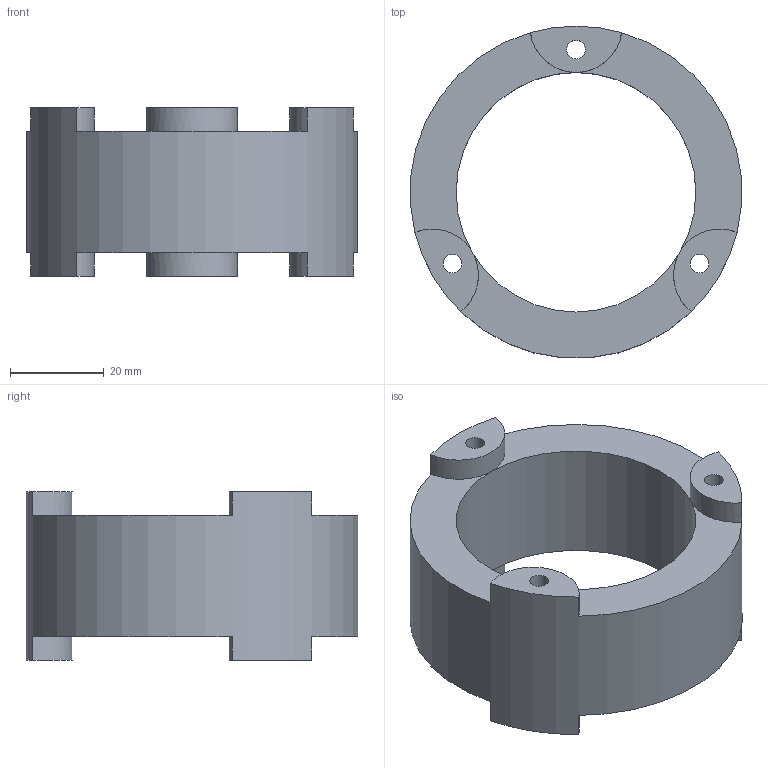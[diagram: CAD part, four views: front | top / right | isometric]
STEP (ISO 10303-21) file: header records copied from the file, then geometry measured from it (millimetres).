
FILE_DESCRIPTION(/* description */ ('STEP AP242 Edition 2','CAx-IF Rec.Pracs.---Representation and Presentation of Product Manufacturing Information (PMI)---4.0---2014-10-13','CAx-IF Rec.Pracs.---3D Tessellated Geometry---0.4---2014-09-14','2;1','CAx-IF Rec.Pracs.---User Defined Attributes---1.5---2016-08-15'),/* implementation_level */ '2;1');
FILE_NAME(/* name */ 'MagnetAssembly - OuterRing',/* time_stamp */ '2026-01-28T16:59:11Z',/* author */ (''),/* organization */ (''),/* preprocessor_version */ 'ST-DEVELOPER v20',/* originating_system */ 'ONSHAPE BY PTC INC, 1.209',/* authorisation */ ' ');
FILE_SCHEMA (('AP242_MANAGED_MODEL_BASED_3D_ENGINEERING_MIM_LF { 1 0 10303 442 3 1 4 }'));
Length unit declared in the file: metre
Products named in the file (1): OuterRing
Bounding box: 70.81 x 70.87 x 36 mm (x, y, z)
Volume: 52270 mm3; surface area: 16502.4 mm2
Topology: 1 solids, 1 shells, 23 faces, 59 edges, 36 vertices
Faces by surface type: plane 12, cylinder 11
Full cylindrical faces by diameter (mm): 4 x3, 51.25 x1, 71 x1
Entity records: 728 total; most frequent: DIRECTION 144, CARTESIAN_POINT 114, ORIENTED_EDGE 108, AXIS2_PLACEMENT_3D 66, EDGE_CURVE 54, CIRCLE 42, VERTEX_POINT 36, EDGE_LOOP 34
